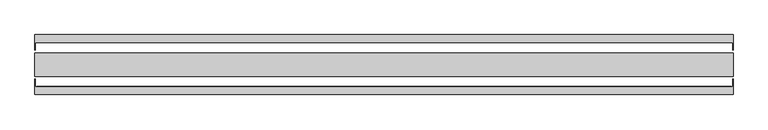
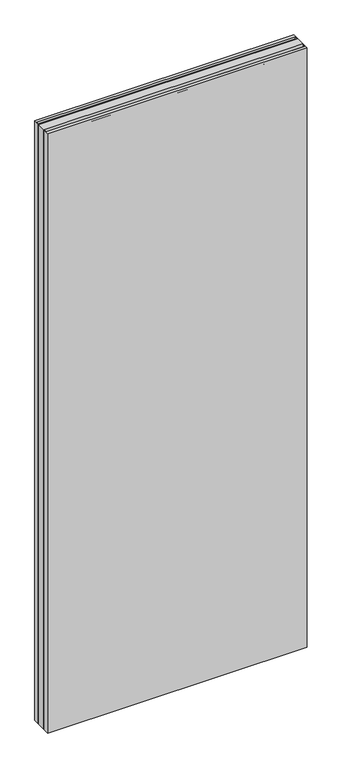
"""IFC4 building model written with IfcOpenShell, lengths in millimetres: plate geometry, 22_IM_VNS_wandpaneel_dicht : 22_IM_VNS_54_AA."""

from ifc_helpers import new_model, si_unit, frame, origin, origin_with_axes, place, context, project, spatial, polyline, outline, extrude, faceted_brep, source, transform, mapped, element, save


def plate_3d1d3679(model_context):
    return source(origin(), model_context, "Body", "SolidModel", [
        faceted_brep([(-594.0, 24.5, 2902.0), (-593.0, 24.5, 2902.0), (-593.0, 38.0, 2902.0), (593.0, 38.0, 2902.0), (593.0, 24.5, 2902.0), (594.0, 24.5, 2902.0), (594.0, 51.0, 2902.0), (-594.0, 51.0, 2902.0), (-594.0, 51.0, 0.0), (594.0, 51.0, 0.0), (594.0, 24.5, 0.0), (593.0, 24.5, 0.0), (593.0, 38.0, 0.0), (-593.0, 38.0, 0.0), (-593.0, 24.5, 0.0), (-594.0, 24.5, 0.0), (-593.0, 38.0, 9.9865245), (-593.0, 39.0, 9.9865245), (-593.0, 39.0, 0.9865245), (-593.0, 50.0, 0.9865245), (-593.0, 50.0, 2901.0134755), (-593.0, 39.0, 2901.0134755), (-593.0, 39.0, 2892.0134755), (-593.0, 38.0, 2892.0134755), (593.0, 50.0, 0.9865245), (593.0, 50.0, 2901.0134755), (593.0, 38.0, 2892.0134755), (593.0, 39.0, 2892.0134755), (593.0, 39.0, 2901.0134755), (593.0, 39.0, 0.9865245), (593.0, 39.0, 9.9865245), (593.0, 38.0, 9.9865245)], [[[0, 1, 2, 3, 4, 5, 6, 7]], [[8, 9, 10, 11, 12, 13, 14, 15]], [[1, 0, 15, 14]], [[1, 14, 13, 16, 17, 18, 19, 20, 21, 22, 23, 2]], [[20, 19, 24, 25]], [[11, 4, 3, 26, 27, 28, 25, 24, 29, 30, 31, 12]], [[5, 4, 11, 10]], [[6, 5, 10, 9]], [[7, 6, 9, 8]], [[8, 15, 0, 7]], [[3, 2, 23, 26]], [[26, 23, 22, 27]], [[27, 22, 21, 28]], [[28, 21, 20, 25]], [[18, 29, 24, 19]], [[29, 18, 17, 30]], [[30, 17, 16, 31]], [[13, 12, 31, 16]]]),
        faceted_brep([(-594.0, -51.0, 2902.0), (594.0, -51.0, 2902.0), (594.0, -24.5, 2902.0), (593.0, -24.5, 2902.0), (593.0, -38.0, 2902.0), (-593.0, -38.0, 2902.0), (-593.0, -24.5, 2902.0), (-594.0, -24.5, 2902.0), (-594.0, -24.5, 0.0), (-593.0, -24.5, 0.0), (-593.0, -38.0, 0.0), (593.0, -38.0, 0.0), (593.0, -24.5, 0.0), (594.0, -24.5, 0.0), (594.0, -51.0, 0.0), (-594.0, -51.0, 0.0), (593.0, -38.0, 9.9865245), (593.0, -39.0, 9.9865245), (593.0, -39.0, 0.9865245), (593.0, -50.0, 0.9865245), (593.0, -50.0, 2901.0134755), (593.0, -39.0, 2901.0134755), (593.0, -39.0, 2892.0134755), (593.0, -38.0, 2892.0134755), (-593.0, -50.0, 0.9865245), (-593.0, -50.0, 2901.0134755), (-593.0, -38.0, 2892.0134755), (-593.0, -39.0, 2892.0134755), (-593.0, -39.0, 2901.0134755), (-593.0, -39.0, 0.9865245), (-593.0, -39.0, 9.9865245), (-593.0, -38.0, 9.9865245)], [[[0, 1, 2, 3, 4, 5, 6, 7]], [[8, 9, 10, 11, 12, 13, 14, 15]], [[0, 7, 8, 15]], [[1, 0, 15, 14]], [[2, 1, 14, 13]], [[3, 2, 13, 12]], [[3, 12, 11, 16, 17, 18, 19, 20, 21, 22, 23, 4]], [[20, 19, 24, 25]], [[9, 6, 5, 26, 27, 28, 25, 24, 29, 30, 31, 10]], [[7, 6, 9, 8]], [[28, 21, 20, 25]], [[21, 28, 27, 22]], [[22, 27, 26, 23]], [[5, 4, 23, 26]], [[11, 10, 31, 16]], [[16, 31, 30, 17]], [[17, 30, 29, 18]], [[18, 29, 24, 19]]]),
        extrude(outline(polyline([(594.0, 20.0), (594.0, -20.0), (-594.0, -20.0), (-594.0, 20.0), (594.0, 20.0)])), origin_with_axes(), (0.0, 0.0, 1.0), 2902.0),
        extrude(outline(polyline([(591.0, 50.0), (591.0, 37.5), (-591.0, 37.5), (-591.0, 50.0), (591.0, 50.0)])), frame((0.0, 0.0, 11.0), z_axis=(0.0, 0.0, 1.0), x_axis=(1.0, 0.0, 0.0)), (0.0, 0.0, 1.0), 2880.0),
        extrude(outline(polyline([(-591.0, -37.5), (591.0, -37.5), (591.0, -50.0), (-591.0, -50.0), (-591.0, -37.5)])), frame((0.0, 0.0, 11.0), z_axis=(0.0, 0.0, 1.0), x_axis=(1.0, 0.0, 0.0)), (0.0, 0.0, 1.0), 2880.0),
    ])


if __name__ == "__main__":
    model = new_model("IFC4")
    model_context = context("Model", 3, world=origin())
    ifc_project = project(units=[si_unit("LENGTHUNIT", "METRE", prefix="MILLI")], contexts=[model_context])
    site = spatial("IfcSite", under=ifc_project)
    building = spatial("IfcBuilding", under=site)
    placement = place(None, origin())
    plate_shape = plate_3d1d3679(model_context)
    element("IfcPlate", 1, ObjectType="22_IM_VNS_wandpaneel_dicht : 22_IM_VNS_54_AA", at=placement, inside=building, context=model_context, shape_type="MappedRepresentation", body=[
        mapped(plate_shape, transform((0.0, 0.0, 0.0), x_axis=(1.0, 0.0, 0.0), y_axis=(0.0, 1.0, 0.0), z_axis=(0.0, 0.0, 1.0))),
    ])
    save(model, "model.ifc")
